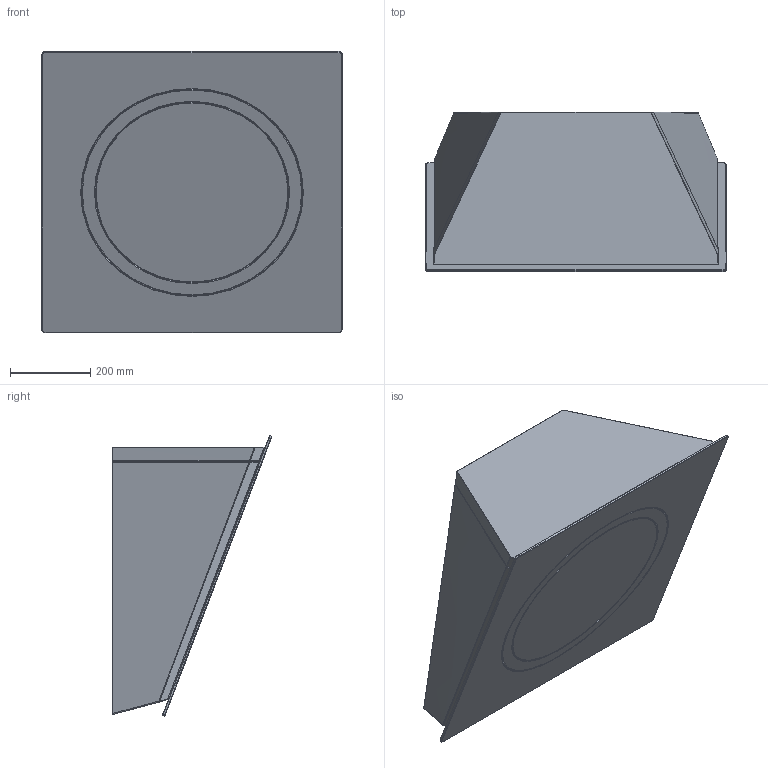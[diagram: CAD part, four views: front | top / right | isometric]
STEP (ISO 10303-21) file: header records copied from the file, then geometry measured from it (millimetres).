
FILE_DESCRIPTION(('STEP AP203'),'2;1');
FILE_NAME('Om_Air_2014_11.stp','2014-11-16T11:24:33',(''),(''),'2012.1.115','THINKDESIGN','');
FILE_SCHEMA(('CONFIG_CONTROL_DESIGN'));
Length unit declared in the file: millimetre
Bounding box: 749 x 398.57 x 700.69 mm (x, y, z)
Volume: 18242948.7 mm3; surface area: 4161119.4 mm2
Topology: 12 solids, 12 shells, 237 faces, 557 edges, 332 vertices
Faces by surface type: bspline 126, cylinder 61, plane 50
Full cylindrical faces by diameter (mm): 40 x1, 332.28 x2, 352.28 x2, 472.108 x1, 480 x1, 483.002 x1, 550 x1, 553 x1, 569.48 x1, 590 x1
Entity records: 23193 total; most frequent: CARTESIAN_POINT 18279, ORIENTED_EDGE 1086, DIRECTION 815, EDGE_CURVE 543, VERTEX_POINT 332, AXIS2_PLACEMENT_3D 317, EDGE_LOOP 251, FACE_OUTER_BOUND 237
